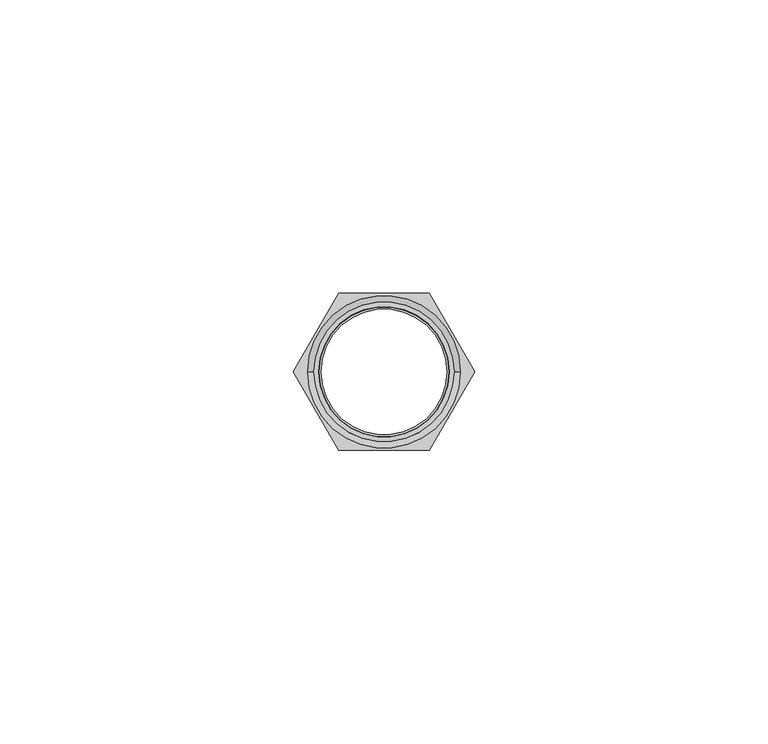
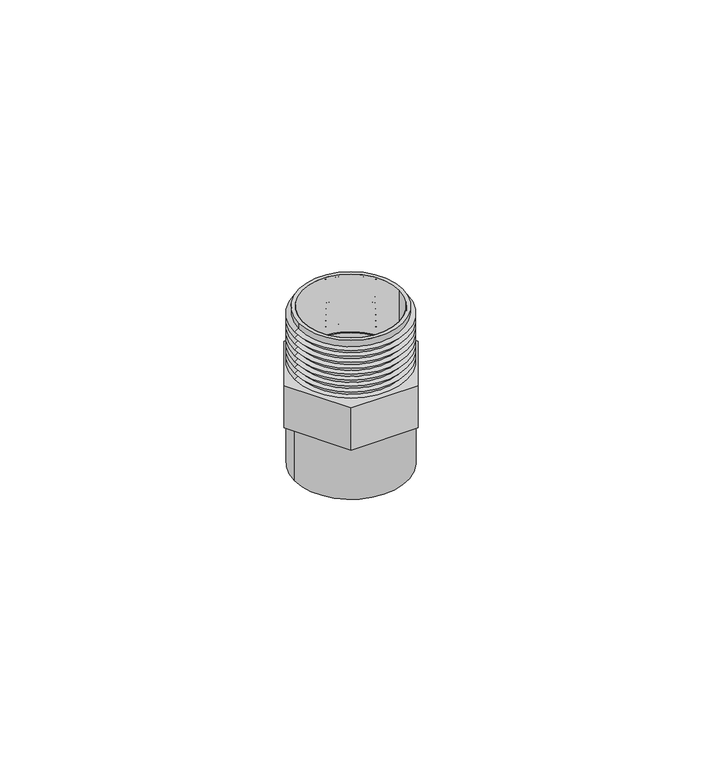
"""IFC4 building model written with IfcOpenShell, lengths in millimetres: valve geometry, Adaptador Macho_Lubrizol_CPVC_FlowGuard_MX 19mm : Adaptador Macho_Lubrizol_CPVC_FlowGuard_MX 19mm."""

from ifc_helpers import new_model, si_unit, point, frame, origin, origin_with_axes, origin_2d, place, context, project, spatial, polyline, circle_curve, trimmed, segment, composite_curve, outline, extrude, source, transform, mapped, element, save
from ifc_brep_helpers import plane_surface, cylinder_surface, revolved_surface, advanced_brep


def valve_ba74af61(model_context):
    return source(origin(), model_context, "Body", "SolidModel", [
        extrude(outline(composite_curve([segment(trimmed(circle_curve(origin_2d(), 11.9362873), [point((-11.9362873, 0.0))], [point((11.9362873, 0.0))], False, "CARTESIAN"), True, "CONTINUOUS"), segment(trimmed(circle_curve(origin_2d(), 11.9362873), [point((11.9362873, 0.0))], [point((-11.9362873, 0.0))], False, "CARTESIAN"), True, "CONTINUOUS")], self_intersect=False), holes=[composite_curve([segment(trimmed(circle_curve(origin_2d(), 11.1), [point((-11.1, 0.0))], [point((11.1, 0.0))], True, "CARTESIAN"), True, "CONTINUOUS"), segment(trimmed(circle_curve(origin_2d(), 11.1), [point((11.1, 0.0))], [point((-11.1, 0.0))], True, "CARTESIAN"), True, "CONTINUOUS")], self_intersect=False)]), frame((0.0, 0.0, 24.0), z_axis=(0.0, 0.0, 1.0), x_axis=(1.0, 0.0, 0.0)), (0.0, 0.0, 1.0), 14.0),
        extrude(outline(polyline([(-7.7266578, -13.382964), (-15.4533157, 0.0), (-7.7266578, 13.382964), (7.7266578, 13.382964), (15.4533157, 0.0), (7.7266578, -13.382964), (-7.7266578, -13.382964)]), holes=[composite_curve([segment(trimmed(circle_curve(origin_2d(), 10.7), [point((-10.7, 0.0))], [point((10.7, 0.0))], True, "CARTESIAN"), True, "CONTINUOUS"), segment(trimmed(circle_curve(origin_2d(), 10.7), [point((10.7, 0.0))], [point((-10.7, 0.0))], True, "CARTESIAN"), True, "CONTINUOUS")], self_intersect=False)]), frame((0.0, 0.0, 13.7252987), z_axis=(0.0, 0.0, 1.0), x_axis=(1.0, 0.0, 0.0)), (0.0, 0.0, 1.0), 10.2747013),
        advanced_brep(
        [(11.9362873, 0.0, 37.0089284), (-11.9362873, 0.0, 37.0089284), (-11.9362873, 0.0, 38.0), (11.9362873, 0.0, 38.0), (13.0, 0.0, 36.2641088), (-13.0, 0.0, 36.2641088), (11.9657757, 0.0, 35.5399371), (-11.9657757, 0.0, 35.5399371), (13.0, 0.0, 34.8157655), (-13.0, 0.0, 34.8157655), (11.9657757, 0.0, 34.0915939), (-11.9657757, 0.0, 34.0915939), (13.0, 0.0, 33.3674223), (-13.0, 0.0, 33.3674223), (11.9657757, 0.0, 32.6432506), (-11.9657757, 0.0, 32.6432506), (13.0, 0.0, 31.919079), (-13.0, 0.0, 31.919079), (11.9657757, 0.0, 31.1949074), (-11.9657757, 0.0, 31.1949074), (13.0, 0.0, 30.4707358), (-13.0, 0.0, 30.4707358), (11.9657757, 0.0, 29.7465641), (-11.9657757, 0.0, 29.7465641), (13.0, 0.0, 29.0223925), (-13.0, 0.0, 29.0223925), (11.9657757, 0.0, 28.2982209), (-11.9657757, 0.0, 28.2982209), (13.0, 0.0, 27.5740493), (-13.0, 0.0, 27.5740493), (11.9657757, 0.0, 26.8498777), (-11.9657757, 0.0, 26.8498777), (11.0854831, 0.0, 24.0), (-11.0854831, 0.0, 24.0), (-12.0326257, 0.0, 24.0), (12.0326257, 0.0, 24.0), (-11.0854831, 0.0, 38.0), (11.0854831, 0.0, 38.0), (13.0, 0.0, 26.125706), (-13.0, 0.0, 26.125706), (11.9657757, 0.0, 25.4015344), (-11.9657757, 0.0, 25.4015344), (13.0, 0.0, 24.6773628), (-13.0, 0.0, 24.6773628)],
        [
            (0, 1, circle_curve(frame((0.0, 0.0, 37.0089284), z_axis=(0.0, 0.0, 1.0), x_axis=(-1.0, 0.0, 0.0)), 11.9362873)),
            (1, 2),
            (2, 3, circle_curve(frame((0.0, 0.0, 38.0), z_axis=(0.0, 0.0, -1.0), x_axis=(-1.0, 0.0, 0.0)), 11.9362873)),
            (3, 0),
            (1, 0, circle_curve(frame((0.0, 0.0, 37.0089284), z_axis=(0.0, 0.0, 1.0), x_axis=(-1.0, 0.0, 0.0)), 11.9362873)),
            (3, 2, circle_curve(frame((0.0, 0.0, 38.0), z_axis=(0.0, 0.0, -1.0), x_axis=(-1.0, 0.0, 0.0)), 11.9362873)),
            (4, 5, circle_curve(frame((0.0, 0.0, 36.2641088), z_axis=(0.0, 0.0, 1.0), x_axis=(-1.0, 0.0, 0.0)), 13.0)),
            (5, 1),
            (0, 4),
            (5, 4, circle_curve(frame((0.0, 0.0, 36.2641088), z_axis=(0.0, 0.0, 1.0), x_axis=(-1.0, 0.0, 0.0)), 13.0)),
            (6, 7, circle_curve(frame((0.0, 0.0, 35.5399371), z_axis=(0.0, 0.0, 1.0), x_axis=(-1.0, 0.0, 0.0)), 11.9657757)),
            (7, 5),
            (4, 6),
            (7, 6, circle_curve(frame((0.0, 0.0, 35.5399371), z_axis=(0.0, 0.0, 1.0), x_axis=(-1.0, 0.0, 0.0)), 11.9657757)),
            (8, 9, circle_curve(frame((0.0, 0.0, 34.8157655), z_axis=(0.0, 0.0, 1.0), x_axis=(-1.0, 0.0, 0.0)), 13.0)),
            (9, 7),
            (6, 8),
            (9, 8, circle_curve(frame((0.0, 0.0, 34.8157655), z_axis=(0.0, 0.0, 1.0), x_axis=(-1.0, 0.0, 0.0)), 13.0)),
            (10, 11, circle_curve(frame((0.0, 0.0, 34.0915939), z_axis=(0.0, 0.0, 1.0), x_axis=(-1.0, 0.0, 0.0)), 11.9657757)),
            (11, 9),
            (8, 10),
            (11, 10, circle_curve(frame((0.0, 0.0, 34.0915939), z_axis=(0.0, 0.0, 1.0), x_axis=(-1.0, 0.0, 0.0)), 11.9657757)),
            (12, 13, circle_curve(frame((0.0, 0.0, 33.3674223), z_axis=(0.0, 0.0, 1.0), x_axis=(-1.0, 0.0, 0.0)), 13.0)),
            (13, 11),
            (10, 12),
            (13, 12, circle_curve(frame((0.0, 0.0, 33.3674223), z_axis=(0.0, 0.0, 1.0), x_axis=(-1.0, 0.0, 0.0)), 13.0)),
            (14, 15, circle_curve(frame((0.0, 0.0, 32.6432506), z_axis=(0.0, 0.0, 1.0), x_axis=(-1.0, 0.0, 0.0)), 11.9657757)),
            (15, 13),
            (12, 14),
            (15, 14, circle_curve(frame((0.0, 0.0, 32.6432506), z_axis=(0.0, 0.0, 1.0), x_axis=(-1.0, 0.0, 0.0)), 11.9657757)),
            (16, 17, circle_curve(frame((0.0, 0.0, 31.919079), z_axis=(0.0, 0.0, 1.0), x_axis=(-1.0, 0.0, 0.0)), 13.0)),
            (17, 15),
            (14, 16),
            (17, 16, circle_curve(frame((0.0, 0.0, 31.919079), z_axis=(0.0, 0.0, 1.0), x_axis=(-1.0, 0.0, 0.0)), 13.0)),
            (18, 19, circle_curve(frame((0.0, 0.0, 31.1949074), z_axis=(0.0, 0.0, 1.0), x_axis=(-1.0, 0.0, 0.0)), 11.9657757)),
            (19, 17),
            (16, 18),
            (19, 18, circle_curve(frame((0.0, 0.0, 31.1949074), z_axis=(0.0, 0.0, 1.0), x_axis=(-1.0, 0.0, 0.0)), 11.9657757)),
            (20, 21, circle_curve(frame((0.0, 0.0, 30.4707358), z_axis=(0.0, 0.0, 1.0), x_axis=(-1.0, 0.0, 0.0)), 13.0)),
            (21, 19),
            (18, 20),
            (21, 20, circle_curve(frame((0.0, 0.0, 30.4707358), z_axis=(0.0, 0.0, 1.0), x_axis=(-1.0, 0.0, 0.0)), 13.0)),
            (22, 23, circle_curve(frame((0.0, 0.0, 29.7465641), z_axis=(0.0, 0.0, 1.0), x_axis=(-1.0, 0.0, 0.0)), 11.9657757)),
            (23, 21),
            (20, 22),
            (23, 22, circle_curve(frame((0.0, 0.0, 29.7465641), z_axis=(0.0, 0.0, 1.0), x_axis=(-1.0, 0.0, 0.0)), 11.9657757)),
            (24, 25, circle_curve(frame((0.0, 0.0, 29.0223925), z_axis=(0.0, 0.0, 1.0), x_axis=(-1.0, 0.0, 0.0)), 13.0)),
            (25, 23),
            (22, 24),
            (25, 24, circle_curve(frame((0.0, 0.0, 29.0223925), z_axis=(0.0, 0.0, 1.0), x_axis=(-1.0, 0.0, 0.0)), 13.0)),
            (26, 27, circle_curve(frame((0.0, 0.0, 28.2982209), z_axis=(0.0, 0.0, 1.0), x_axis=(-1.0, 0.0, 0.0)), 11.9657757)),
            (27, 25),
            (24, 26),
            (27, 26, circle_curve(frame((0.0, 0.0, 28.2982209), z_axis=(0.0, 0.0, 1.0), x_axis=(-1.0, 0.0, 0.0)), 11.9657757)),
            (28, 29, circle_curve(frame((0.0, 0.0, 27.5740493), z_axis=(0.0, 0.0, 1.0), x_axis=(-1.0, 0.0, 0.0)), 13.0)),
            (29, 27),
            (26, 28),
            (29, 28, circle_curve(frame((0.0, 0.0, 27.5740493), z_axis=(0.0, 0.0, 1.0), x_axis=(-1.0, 0.0, 0.0)), 13.0)),
            (30, 31, circle_curve(frame((0.0, 0.0, 26.8498777), z_axis=(0.0, 0.0, 1.0), x_axis=(-1.0, 0.0, 0.0)), 11.9657757)),
            (31, 29),
            (28, 30),
            (31, 30, circle_curve(frame((0.0, 0.0, 26.8498777), z_axis=(0.0, 0.0, 1.0), x_axis=(-1.0, 0.0, 0.0)), 11.9657757)),
            (32, 33, circle_curve(frame((0.0, 0.0, 24.0), z_axis=(0.0, 0.0, 1.0), x_axis=(-1.0, 0.0, 0.0)), 11.0854831)),
            (33, 34),
            (34, 35, circle_curve(frame((0.0, 0.0, 24.0), z_axis=(0.0, 0.0, -1.0), x_axis=(-1.0, 0.0, 0.0)), 12.0326257)),
            (35, 32),
            (33, 32, circle_curve(frame((0.0, 0.0, 24.0), z_axis=(0.0, 0.0, 1.0), x_axis=(-1.0, 0.0, 0.0)), 11.0854831)),
            (35, 34, circle_curve(frame((0.0, 0.0, 24.0), z_axis=(0.0, 0.0, -1.0), x_axis=(-1.0, 0.0, 0.0)), 12.0326257)),
            (2, 36),
            (36, 37, circle_curve(frame((0.0, 0.0, 38.0), z_axis=(0.0, 0.0, -1.0), x_axis=(-1.0, 0.0, 0.0)), 11.0854831)),
            (37, 3),
            (37, 36, circle_curve(frame((0.0, 0.0, 38.0), z_axis=(0.0, 0.0, -1.0), x_axis=(-1.0, 0.0, 0.0)), 11.0854831)),
            (36, 33),
            (32, 37),
            (38, 39, circle_curve(frame((0.0, 0.0, 26.125706), z_axis=(0.0, 0.0, 1.0), x_axis=(-1.0, 0.0, 0.0)), 13.0)),
            (39, 31),
            (30, 38),
            (39, 38, circle_curve(frame((0.0, 0.0, 26.125706), z_axis=(0.0, 0.0, 1.0), x_axis=(-1.0, 0.0, 0.0)), 13.0)),
            (40, 41, circle_curve(frame((0.0, 0.0, 25.4015344), z_axis=(0.0, 0.0, 1.0), x_axis=(-1.0, 0.0, 0.0)), 11.9657757)),
            (41, 39),
            (38, 40),
            (41, 40, circle_curve(frame((0.0, 0.0, 25.4015344), z_axis=(0.0, 0.0, 1.0), x_axis=(-1.0, 0.0, 0.0)), 11.9657757)),
            (42, 43, circle_curve(frame((0.0, 0.0, 24.6773628), z_axis=(0.0, 0.0, 1.0), x_axis=(-1.0, 0.0, 0.0)), 13.0)),
            (43, 41),
            (40, 42),
            (43, 42, circle_curve(frame((0.0, 0.0, 24.6773628), z_axis=(0.0, 0.0, 1.0), x_axis=(-1.0, 0.0, 0.0)), 13.0)),
            (34, 43),
            (42, 35),
        ],
        [
            cylinder_surface(frame((0.0, 0.0, 32.7589883), z_axis=(0.0, 0.0, -1.0), x_axis=(-1.0, 0.0, 0.0)), 11.9362873),
            revolved_surface(polyline([(-11.9362873, 0.0, 37.0089284), (-13.0, 0.0, 36.2641088)]), (0.0, 0.0, 32.7589883), (0.0, 0.0, -1.0)),
            revolved_surface(polyline([(-13.0, 0.0, 36.2641088), (-11.9657757, 0.0, 35.5399371)]), (0.0, 0.0, 32.7589883), (0.0, 0.0, -1.0)),
            revolved_surface(polyline([(-11.9657757, 0.0, 35.5399371), (-13.0, 0.0, 34.8157655)]), (0.0, 0.0, 32.7589883), (0.0, 0.0, -1.0)),
            revolved_surface(polyline([(-13.0, 0.0, 34.8157655), (-11.9657757, 0.0, 34.0915939)]), (0.0, 0.0, 32.7589883), (0.0, 0.0, -1.0)),
            revolved_surface(polyline([(-11.9657757, 0.0, 34.0915939), (-13.0, 0.0, 33.3674223)]), (0.0, 0.0, 32.7589883), (0.0, 0.0, -1.0)),
            revolved_surface(polyline([(-13.0, 0.0, 33.3674223), (-11.9657757, 0.0, 32.6432506)]), (0.0, 0.0, 32.7589883), (0.0, 0.0, -1.0)),
            revolved_surface(polyline([(-11.9657757, 0.0, 32.6432506), (-13.0, 0.0, 31.919079)]), (0.0, 0.0, 32.7589883), (0.0, 0.0, -1.0)),
            revolved_surface(polyline([(-13.0, 0.0, 31.919079), (-11.9657757, 0.0, 31.1949074)]), (0.0, 0.0, 32.7589883), (0.0, 0.0, -1.0)),
            revolved_surface(polyline([(-11.9657757, 0.0, 31.1949074), (-13.0, 0.0, 30.4707358)]), (0.0, 0.0, 32.7589883), (0.0, 0.0, -1.0)),
            revolved_surface(polyline([(-13.0, 0.0, 30.4707358), (-11.9657757, 0.0, 29.7465641)]), (0.0, 0.0, 32.7589883), (0.0, 0.0, -1.0)),
            revolved_surface(polyline([(-11.9657757, 0.0, 29.7465641), (-13.0, 0.0, 29.0223925)]), (0.0, 0.0, 32.7589883), (0.0, 0.0, -1.0)),
            revolved_surface(polyline([(-13.0, 0.0, 29.0223925), (-11.9657757, 0.0, 28.2982209)]), (0.0, 0.0, 32.7589883), (0.0, 0.0, -1.0)),
            revolved_surface(polyline([(-11.9657757, 0.0, 28.2982209), (-13.0, 0.0, 27.5740493)]), (0.0, 0.0, 32.7589883), (0.0, 0.0, -1.0)),
            revolved_surface(polyline([(-13.0, 0.0, 27.5740493), (-11.9657757, 0.0, 26.8498777)]), (0.0, 0.0, 32.7589883), (0.0, 0.0, -1.0)),
            plane_surface(frame((0.0, 0.0, 24.0), z_axis=(0.0, 0.0, -1.0), x_axis=(-1.0, 0.0, 0.0))),
            plane_surface(frame((0.0, 0.0, 38.0), z_axis=(0.0, 0.0, 1.0), x_axis=(-1.0, 0.0, 0.0))),
            revolved_surface(polyline([(-11.0854831, 0.0, 24.0), (-11.0854831, 0.0, 38.0)]), (0.0, 0.0, 32.7589883), (0.0, 0.0, -1.0)),
            revolved_surface(polyline([(-11.9657757, 0.0, 26.8498777), (-13.0, 0.0, 26.125706)]), (0.0, 0.0, 32.7589883), (0.0, 0.0, -1.0)),
            revolved_surface(polyline([(-13.0, 0.0, 26.125706), (-11.9657757, 0.0, 25.4015344)]), (0.0, 0.0, 32.7589883), (0.0, 0.0, -1.0)),
            revolved_surface(polyline([(-11.9657757, 0.0, 25.4015344), (-13.0, 0.0, 24.6773628)]), (0.0, 0.0, 32.7589883), (0.0, 0.0, -1.0)),
            revolved_surface(polyline([(-13.0, 0.0, 24.6773628), (-12.0326257, 0.0, 24.0)]), (0.0, 0.0, 32.7589883), (0.0, 0.0, -1.0)),
        ],
        [
            (0, [[1, 2, 3, 4]]),
            (0, [[5, -4, 6, -2]]),
            (1, [[7, 8, -1, 9]]),
            (1, [[10, -9, -5, -8]]),
            (2, [[11, 12, -7, 13]]),
            (2, [[14, -13, -10, -12]]),
            (3, [[15, 16, -11, 17]]),
            (3, [[18, -17, -14, -16]]),
            (4, [[19, 20, -15, 21]]),
            (4, [[22, -21, -18, -20]]),
            (5, [[23, 24, -19, 25]]),
            (5, [[26, -25, -22, -24]]),
            (6, [[27, 28, -23, 29]]),
            (6, [[30, -29, -26, -28]]),
            (7, [[31, 32, -27, 33]]),
            (7, [[34, -33, -30, -32]]),
            (8, [[35, 36, -31, 37]]),
            (8, [[38, -37, -34, -36]]),
            (9, [[39, 40, -35, 41]]),
            (9, [[42, -41, -38, -40]]),
            (10, [[43, 44, -39, 45]]),
            (10, [[46, -45, -42, -44]]),
            (11, [[47, 48, -43, 49]]),
            (11, [[50, -49, -46, -48]]),
            (12, [[51, 52, -47, 53]]),
            (12, [[54, -53, -50, -52]]),
            (13, [[55, 56, -51, 57]]),
            (13, [[58, -57, -54, -56]]),
            (14, [[59, 60, -55, 61]]),
            (14, [[62, -61, -58, -60]]),
            (15, [[63, 64, 65, 66]]),
            (15, [[67, -66, 68, -64]]),
            (16, [[-3, 69, 70, 71]]),
            (16, [[-6, -71, 72, -69]]),
            (17, [[-70, 73, -63, 74]]),
            (17, [[-72, -74, -67, -73]]),
            (18, [[75, 76, -59, 77]]),
            (18, [[78, -77, -62, -76]]),
            (19, [[79, 80, -75, 81]]),
            (19, [[82, -81, -78, -80]]),
            (20, [[83, 84, -79, 85]]),
            (20, [[86, -85, -82, -84]]),
            (21, [[-65, 87, -83, 88]]),
            (21, [[-68, -88, -86, -87]]),
        ],
    ),
        extrude(outline(composite_curve([segment(trimmed(circle_curve(origin_2d(), 13.0), [point((-13.0, 0.0))], [point((13.0, 0.0))], False, "CARTESIAN"), True, "CONTINUOUS"), segment(trimmed(circle_curve(origin_2d(), 13.0), [point((13.0, 0.0))], [point((-13.0, 0.0))], False, "CARTESIAN"), True, "CONTINUOUS")], self_intersect=False), holes=[composite_curve([segment(trimmed(circle_curve(origin_2d(), 11.1), [point((-11.1, 0.0))], [point((11.1, 0.0))], True, "CARTESIAN"), True, "CONTINUOUS"), segment(trimmed(circle_curve(origin_2d(), 11.1), [point((11.1, 0.0))], [point((-11.1, 0.0))], True, "CARTESIAN"), True, "CONTINUOUS")], self_intersect=False)]), origin_with_axes(), (0.0, 0.0, 1.0), 13.7252987),
    ])


if __name__ == "__main__":
    model = new_model("IFC4")
    model_context = context("Model", 3, world=origin())
    ifc_project = project(units=[si_unit("LENGTHUNIT", "METRE", prefix="MILLI")], contexts=[model_context])
    site = spatial("IfcSite", under=ifc_project)
    building = spatial("IfcBuilding", under=site)
    placement = place(None, origin())
    valve_shape = valve_ba74af61(model_context)
    element("IfcValve", 1, ObjectType="Adaptador Macho_Lubrizol_CPVC_FlowGuard_MX 19mm : Adaptador Macho_Lubrizol_CPVC_FlowGuard_MX 19mm", at=placement, inside=building, context=model_context, shape_type="MappedRepresentation", body=[
        mapped(valve_shape, transform((0.0, 0.0, 0.0), x_axis=(1.0, 0.0, 0.0), y_axis=(0.0, 1.0, 0.0), z_axis=(0.0, 0.0, 1.0))),
    ])
    save(model, "model.ifc")
